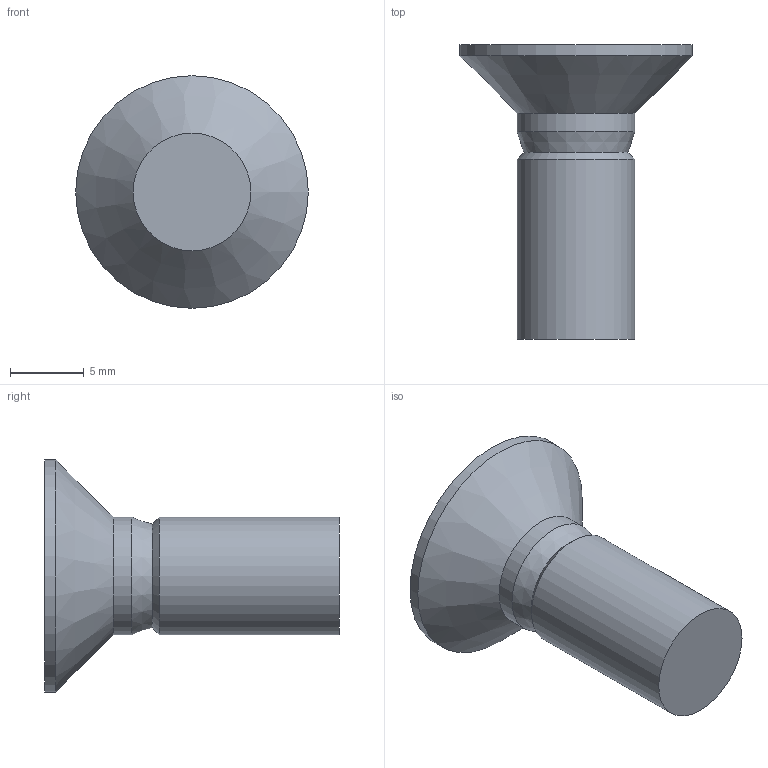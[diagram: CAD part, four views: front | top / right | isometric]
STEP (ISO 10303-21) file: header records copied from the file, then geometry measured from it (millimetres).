
FILE_DESCRIPTION(/* description */ (''),/* implementation_level */ '2;1');
FILE_NAME(/* name */ 'C:\Users\unitec\Documents\Inventor\HP\ボルト\JIS B 1111 十字穴付き皿小ねじ\IPT\CHWCSS-M8\CHWCSS-M8-20.stp',/* time_stamp */ '2016-12-24T16:30:28+09:00',/* author */ ('unitec'),/* organization */ (''),/* preprocessor_version */ 'ST-DEVELOPER v15.2',/* originating_system */ 'Autodesk Inventor 2014',/* authorisation */ '');
FILE_SCHEMA (('AUTOMOTIVE_DESIGN { 1 0 10303 214 3 1 1 }'));
Length unit declared in the file: millimetre
Products named in the file (1): CHWCSS-M8-20
Bounding box: 15.8 x 20 x 15.8 mm (x, y, z)
Volume: 1298 mm3; surface area: 931.3 mm2
Topology: 1 solids, 1 shells, 33 faces, 77 edges, 43 vertices
Faces by surface type: plane 23, bspline 4, cylinder 3, cone 3
Full cylindrical faces by diameter (mm): 8 x2, 15.8 x1
Entity records: 1057 total; most frequent: CARTESIAN_POINT 400, ORIENTED_EDGE 134, DIRECTION 106, EDGE_CURVE 67, VERTEX_POINT 43, EDGE_LOOP 40, AXIS2_PLACEMENT_3D 37, ADVANCED_FACE 33
